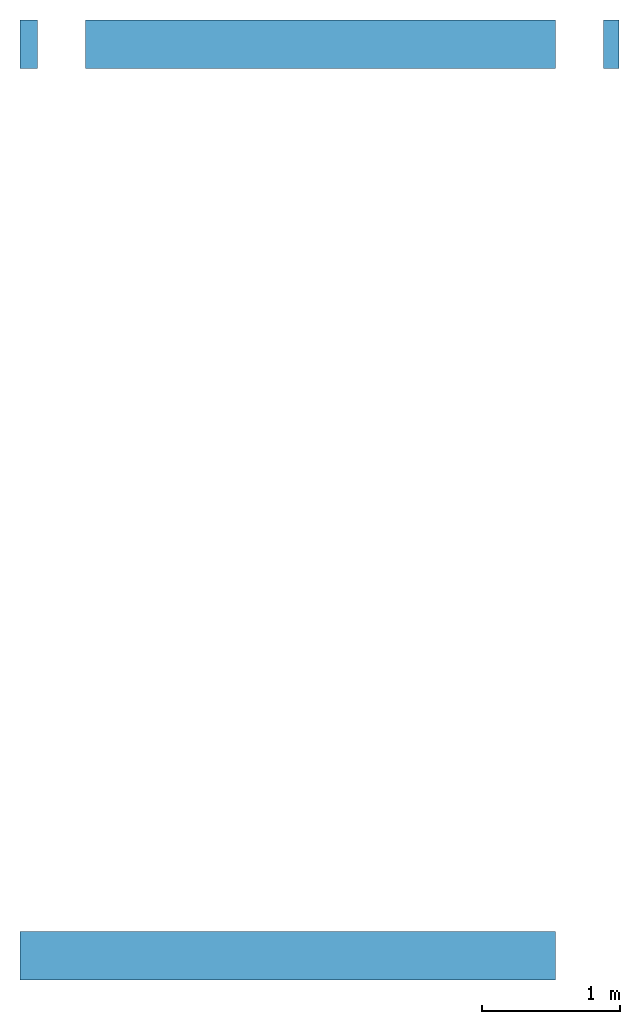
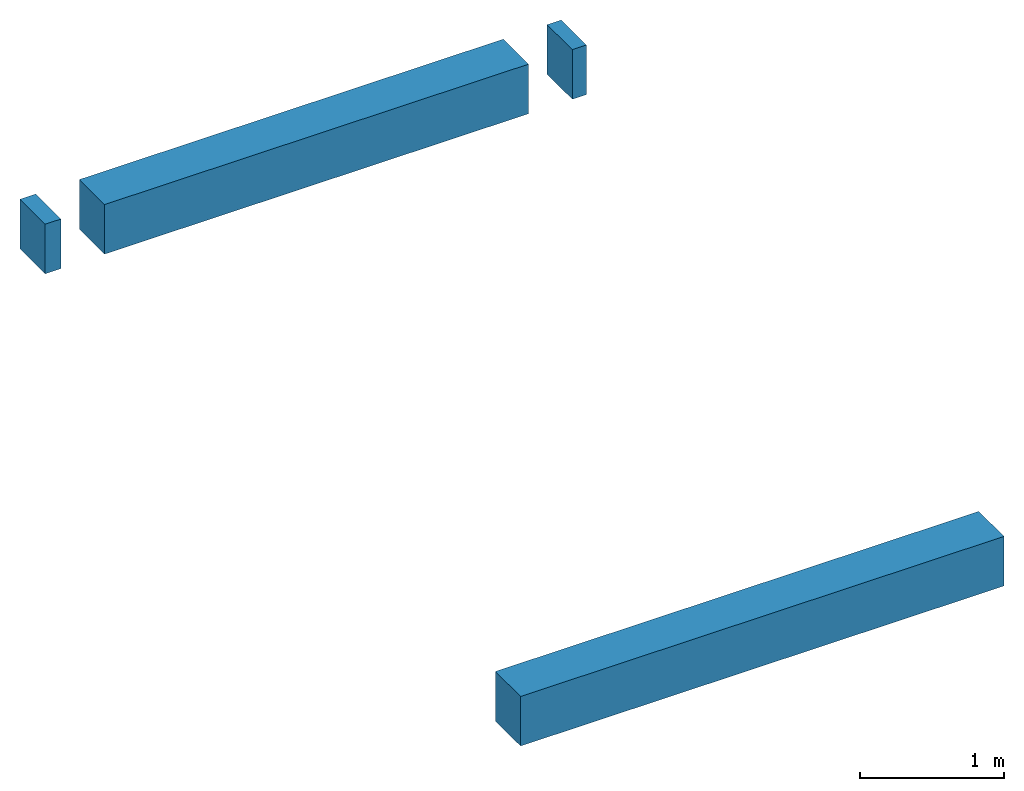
# One storey: 2 beams.
"""IFC2X3 building model written with IfcOpenShell, lengths in millimetres."""

from ifc_helpers import new_model, entity, si_unit, converted_unit, derived_unit, direction, frame, frame_2d, origin, origin_with_axes, place, context, subcontext, project, spatial, rectangle, extrude, source, transform, mapped, material, type_object, element, save


model = new_model("IFC2X3")

# Units and contexts
model_context = context("Model", 3, precision=0.01, world=origin(), true_north=direction((6.12303176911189e-17, 1.0)))
plan_context = context("Plan", 3, precision=1e-05, world=origin_with_axes())
body_context = subcontext(model_context, "Body", "Model", "MODEL_VIEW")
ifc_project = project(units=[converted_unit("PLANEANGLEUNIT", "DEGREE", entity("IfcPositiveLengthMeasure", 0.0174532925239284), si_unit("PLANEANGLEUNIT", "RADIAN"), dimensions=[0, 0, 0, 0, 0, 0, 0]), si_unit("AREAUNIT", "SQUARE_METRE"), si_unit("LENGTHUNIT", "METRE", prefix="MILLI"), si_unit("MASSUNIT", "GRAM", prefix="KILO"), si_unit("POWERUNIT", "WATT"), si_unit("PRESSUREUNIT", "PASCAL"), si_unit("FORCEUNIT", "NEWTON", prefix="KILO"), si_unit("ELECTRICVOLTAGEUNIT", "VOLT"), si_unit("ELECTRICCURRENTUNIT", "AMPERE"), si_unit("THERMODYNAMICTEMPERATUREUNIT", "DEGREE_CELSIUS"), si_unit("TIMEUNIT", "SECOND"), si_unit("VOLUMEUNIT", "CUBIC_METRE"), derived_unit("LINEARVELOCITYUNIT", [(si_unit("LENGTHUNIT", "METRE"), 1), (si_unit("TIMEUNIT", "SECOND"), -1)]), derived_unit("VOLUMETRICFLOWRATEUNIT", [(si_unit("VOLUMEUNIT", "CUBIC_METRE"), 1), (si_unit("TIMEUNIT", "SECOND"), -1)]), derived_unit("THERMALTRANSMITTANCEUNIT", [(si_unit("POWERUNIT", "WATT"), 1), (si_unit("THERMODYNAMICTEMPERATUREUNIT", "KELVIN"), -1), (si_unit("AREAUNIT", "SQUARE_METRE"), -1)]), derived_unit("SOUNDPRESSUREUNIT", [(si_unit("PRESSUREUNIT", "PASCAL"), 1)])], contexts=[model_context, plan_context])

# Site, building, storey
site_placement = place(None, frame((2314154.5009392, 1029894.10887124, 0.0), z_axis=(0.0, 0.0, 1.0), x_axis=(1.0, 0.0, 0.0)))
site = spatial("IfcSite", under=ifc_project, at=site_placement, Name="Default", CompositionType="ELEMENT")
building_placement = place(site_placement, origin_with_axes())
building = spatial("IfcBuilding", under=site, at=building_placement, CompositionType="ELEMENT")
storey_placement = place(building_placement, frame((0.0, 0.0, 13220.0), z_axis=(0.0, 0.0, 1.0), x_axis=(1.0, 0.0, 0.0)))
storey = spatial("IfcBuildingStorey", under=building, at=storey_placement, Name="XX - C +13,22 TB U/S BEAM", CompositionType="ELEMENT", Elevation=13220.0)

# Beams
ifc_material = material(Name="<Unnamed>")
beam_type = type_object("IfcBeamType", Name="M_Concrete-Rectangular Beam:350X420", PredefinedType="BEAM", material=ifc_material)
shared_shape = source(origin(), body_context, "Body", "SweptSolid", [
    extrude(rectangle(XDim=420.0, YDim=350.000000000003, at=frame_2d((0.0, -2.1600499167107e-12), x_axis=(1.0, 0.0))), frame((312341.133944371, -36649.4514097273, 13430.0), z_axis=(1.0, 0.0, 0.0), x_axis=(0.0, 0.0, -1.0)), (0.0, 0.0, 1.0), 112.499999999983),
    extrude(rectangle(XDim=420.0, YDim=350.000000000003, at=frame_2d((0.0, -2.1600499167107e-12), x_axis=(1.0, 0.0))), frame((308116.13394735, -36649.4514097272, 13430.0), z_axis=(1.0, 0.0, 0.0), x_axis=(0.0, 0.0, -1.0)), (0.0, 0.0, 1.0), 125.000000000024),
    extrude(rectangle(XDim=420.0, YDim=350.000000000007, at=frame_2d((0.0, 1.30029320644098e-11), x_axis=(1.0, 0.0))), frame((308591.13394735, -36649.4514097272, 13430.0), z_axis=(1.0, 0.0, 0.0), x_axis=(0.0, 0.0, -1.0)), (0.0, 0.0, 1.0), 3399.99999702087),
])
beam_1_placement = place(storey_placement, frame((0.0, 0.0, -13220.0), z_axis=(0.0, 0.0, 1.0), x_axis=(1.0, 0.0, 0.0)))
element("IfcBeam", 1, at=beam_1_placement, inside=storey, type_object=beam_type, material=ifc_material, Name="M_Concrete-Rectangular Beam:350X420", ObjectType="M_Concrete-Rectangular Beam:350X420", context=body_context, shape_type="MappedRepresentation", body=[
    mapped(shared_shape, transform((0.0, 0.0, 0.0), scale=1.0)),
])
beam_2_placement = place(storey_placement, frame((307941.13394735, -43249.4514097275, 0.0), z_axis=(0.0, 0.0, 1.0), x_axis=(1.0, 0.0, 0.0)))
element("IfcBeam", 2, at=beam_2_placement, inside=storey, type_object=beam_type, Name="M_Concrete-Rectangular Beam:350X420", ObjectType="M_Concrete-Rectangular Beam:350X420", context=body_context, shape_type="SweptSolid", body=[
    extrude(rectangle(XDim=420.0, YDim=349.999999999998, at=frame_2d((2.1600499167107e-12, 1.29887212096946e-11), x_axis=(1.0, 0.0))), frame((175.0, 0.0, 210.0), z_axis=(1.0, 0.0, 0.0), x_axis=(0.0, 0.0, -1.0)), (0.0, 0.0, 1.0), 3875.00000000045),
])

save(model, "model.ifc")
